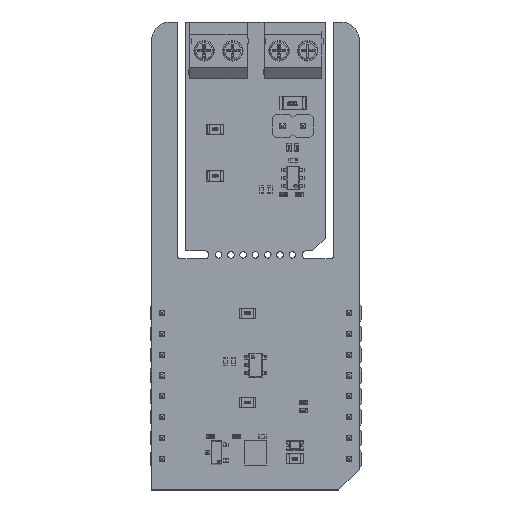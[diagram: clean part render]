
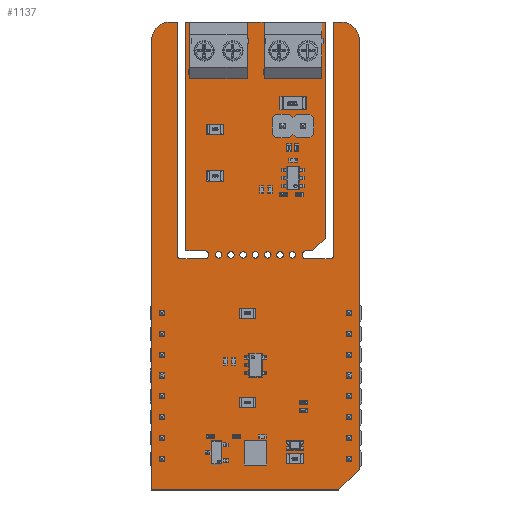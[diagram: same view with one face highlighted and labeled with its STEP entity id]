
A CAD part, top view. The second image highlights one B-rep face of the part: STEP entity #1137.
In plain terms, the highlighted planar face has unit normal (0, 0, 1).
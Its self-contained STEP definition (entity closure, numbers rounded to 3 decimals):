
#168 = VERTEX_POINT('',#169);
#169 = CARTESIAN_POINT('',(1.905,24.8,1.59));
#175 = EDGE_CURVE('',#168,#176,#178,.T.);
#176 = VERTEX_POINT('',#177);
#177 = CARTESIAN_POINT('',(2.305,24.4,1.59));
#178 = CIRCLE('',#179,0.399);
#179 = AXIS2_PLACEMENT_3D('',#180,#181,#182);
#180 = CARTESIAN_POINT('',(2.304,24.799,1.59));
#181 = DIRECTION('',(0.,0.,1.));
#182 = DIRECTION('',(-1.,0.001,0.));
#208 = EDGE_CURVE('',#176,#209,#211,.T.);
#209 = VERTEX_POINT('',#210);
#210 = CARTESIAN_POINT('',(5.23,24.4,1.59));
#211 = LINE('',#212,#213);
#212 = CARTESIAN_POINT('',(2.305,24.4,1.59));
#213 = VECTOR('',#214,1.);
#214 = DIRECTION('',(1.,0.,0.));
#239 = EDGE_CURVE('',#209,#240,#242,.T.);
#240 = VERTEX_POINT('',#241);
#241 = CARTESIAN_POINT('',(5.23,25.4,1.59));
#242 = CIRCLE('',#243,0.5);
#243 = AXIS2_PLACEMENT_3D('',#244,#245,#246);
#244 = CARTESIAN_POINT('',(5.23,24.9,1.59));
#245 = DIRECTION('',(0.,0.,1.));
#246 = DIRECTION('',(-0.,-1.,0.));
#272 = EDGE_CURVE('',#240,#273,#275,.T.);
#273 = VERTEX_POINT('',#274);
#274 = CARTESIAN_POINT('',(2.921,25.4,1.59));
#275 = LINE('',#276,#277);
#276 = CARTESIAN_POINT('',(5.23,25.4,1.59));
#277 = VECTOR('',#278,1.);
#278 = DIRECTION('',(-1.,0.,0.));
#303 = EDGE_CURVE('',#273,#304,#306,.T.);
#304 = VERTEX_POINT('',#305);
#305 = CARTESIAN_POINT('',(2.921,53.34,1.59));
#306 = LINE('',#307,#308);
#307 = CARTESIAN_POINT('',(2.921,25.4,1.59));
#308 = VECTOR('',#309,1.);
#309 = DIRECTION('',(0.,1.,0.));
#334 = EDGE_CURVE('',#304,#335,#337,.T.);
#335 = VERTEX_POINT('',#336);
#336 = CARTESIAN_POINT('',(19.939,53.34,1.59));
#337 = LINE('',#338,#339);
#338 = CARTESIAN_POINT('',(2.921,53.34,1.59));
#339 = VECTOR('',#340,1.);
#340 = DIRECTION('',(1.,0.,0.));
#365 = EDGE_CURVE('',#335,#366,#368,.T.);
#366 = VERTEX_POINT('',#367);
#367 = CARTESIAN_POINT('',(19.939,26.924,1.59));
#368 = LINE('',#369,#370);
#369 = CARTESIAN_POINT('',(19.939,53.34,1.59));
#370 = VECTOR('',#371,1.);
#371 = DIRECTION('',(0.,-1.,0.));
#396 = EDGE_CURVE('',#366,#397,#399,.T.);
#397 = VERTEX_POINT('',#398);
#398 = CARTESIAN_POINT('',(18.415,25.4,1.59));
#399 = LINE('',#400,#401);
#400 = CARTESIAN_POINT('',(19.939,26.924,1.59));
#401 = VECTOR('',#402,1.);
#402 = DIRECTION('',(-0.707,-0.707,0.));
#427 = EDGE_CURVE('',#397,#428,#430,.T.);
#428 = VERTEX_POINT('',#429);
#429 = CARTESIAN_POINT('',(17.63,25.4,1.59));
#430 = LINE('',#431,#432);
#431 = CARTESIAN_POINT('',(18.415,25.4,1.59));
#432 = VECTOR('',#433,1.);
#433 = DIRECTION('',(-1.,0.,0.));
#458 = EDGE_CURVE('',#428,#459,#461,.T.);
#459 = VERTEX_POINT('',#460);
#460 = CARTESIAN_POINT('',(17.63,24.4,1.59));
#461 = CIRCLE('',#462,0.5);
#462 = AXIS2_PLACEMENT_3D('',#463,#464,#465);
#463 = CARTESIAN_POINT('',(17.63,24.9,1.59));
#464 = DIRECTION('',(0.,-0.,1.));
#465 = DIRECTION('',(0.,1.,0.));
#491 = EDGE_CURVE('',#459,#492,#494,.T.);
#492 = VERTEX_POINT('',#493);
#493 = CARTESIAN_POINT('',(20.555,24.4,1.59));
#494 = LINE('',#495,#496);
#495 = CARTESIAN_POINT('',(17.63,24.4,1.59));
#496 = VECTOR('',#497,1.);
#497 = DIRECTION('',(1.,0.,0.));
#522 = EDGE_CURVE('',#492,#523,#525,.T.);
#523 = VERTEX_POINT('',#524);
#524 = CARTESIAN_POINT('',(20.955,24.8,1.59));
#525 = CIRCLE('',#526,0.399);
#526 = AXIS2_PLACEMENT_3D('',#527,#528,#529);
#527 = CARTESIAN_POINT('',(20.556,24.799,1.59));
#528 = DIRECTION('',(0.,0.,1.));
#529 = DIRECTION('',(-0.001,-1.,0.));
#555 = EDGE_CURVE('',#523,#556,#558,.T.);
#556 = VERTEX_POINT('',#557);
#557 = CARTESIAN_POINT('',(20.955,53.34,1.59));
#558 = LINE('',#559,#560);
#559 = CARTESIAN_POINT('',(20.955,24.8,1.59));
#560 = VECTOR('',#561,1.);
#561 = DIRECTION('',(0.,1.,0.));
#586 = EDGE_CURVE('',#556,#587,#589,.T.);
#587 = VERTEX_POINT('',#588);
#588 = CARTESIAN_POINT('',(21.844,53.34,1.59));
#589 = LINE('',#590,#591);
#590 = CARTESIAN_POINT('',(20.955,53.34,1.59));
#591 = VECTOR('',#592,1.);
#592 = DIRECTION('',(1.,0.,0.));
#617 = EDGE_CURVE('',#587,#618,#620,.T.);
#618 = VERTEX_POINT('',#619);
#619 = CARTESIAN_POINT('',(24.13,51.054,1.59));
#620 = CIRCLE('',#621,2.288);
#621 = AXIS2_PLACEMENT_3D('',#622,#623,#624);
#622 = CARTESIAN_POINT('',(21.842,51.052,1.59));
#623 = DIRECTION('',(0.,0.,-1.));
#624 = DIRECTION('',(0.001,1.,0.));
#650 = EDGE_CURVE('',#618,#651,#653,.T.);
#651 = VERTEX_POINT('',#652);
#652 = CARTESIAN_POINT('',(24.13,-1.27,1.59));
#653 = LINE('',#654,#655);
#654 = CARTESIAN_POINT('',(24.13,51.054,1.59));
#655 = VECTOR('',#656,1.);
#656 = DIRECTION('',(0.,-1.,0.));
#681 = EDGE_CURVE('',#651,#682,#684,.T.);
#682 = VERTEX_POINT('',#683);
#683 = CARTESIAN_POINT('',(21.59,-3.81,1.59));
#684 = LINE('',#685,#686);
#685 = CARTESIAN_POINT('',(24.13,-1.27,1.59));
#686 = VECTOR('',#687,1.);
#687 = DIRECTION('',(-0.707,-0.707,0.));
#712 = EDGE_CURVE('',#682,#713,#715,.T.);
#713 = VERTEX_POINT('',#714);
#714 = CARTESIAN_POINT('',(-1.27,-3.81,1.59));
#715 = LINE('',#716,#717);
#716 = CARTESIAN_POINT('',(21.59,-3.81,1.59));
#717 = VECTOR('',#718,1.);
#718 = DIRECTION('',(-1.,0.,0.));
#743 = EDGE_CURVE('',#713,#744,#746,.T.);
#744 = VERTEX_POINT('',#745);
#745 = CARTESIAN_POINT('',(-1.27,51.054,1.59));
#746 = LINE('',#747,#748);
#747 = CARTESIAN_POINT('',(-1.27,-3.81,1.59));
#748 = VECTOR('',#749,1.);
#749 = DIRECTION('',(0.,1.,0.));
#774 = EDGE_CURVE('',#744,#775,#777,.T.);
#775 = VERTEX_POINT('',#776);
#776 = CARTESIAN_POINT('',(1.016,53.34,1.59));
#777 = CIRCLE('',#778,2.288);
#778 = AXIS2_PLACEMENT_3D('',#779,#780,#781);
#779 = CARTESIAN_POINT('',(1.018,51.052,1.59));
#780 = DIRECTION('',(0.,0.,-1.));
#781 = DIRECTION('',(-1.,0.001,0.));
#807 = EDGE_CURVE('',#775,#808,#810,.T.);
#808 = VERTEX_POINT('',#809);
#809 = CARTESIAN_POINT('',(1.905,53.34,1.59));
#810 = LINE('',#811,#812);
#811 = CARTESIAN_POINT('',(1.016,53.34,1.59));
#812 = VECTOR('',#813,1.);
#813 = DIRECTION('',(1.,0.,0.));
#838 = EDGE_CURVE('',#808,#168,#839,.T.);
#839 = LINE('',#840,#841);
#840 = CARTESIAN_POINT('',(1.905,53.34,1.59));
#841 = VECTOR('',#842,1.);
#842 = DIRECTION('',(0.,-1.,0.));
#862 = VERTEX_POINT('',#863);
#863 = CARTESIAN_POINT('',(7.33,24.9,1.59));
#869 = EDGE_CURVE('',#862,#862,#870,.T.);
#870 = CIRCLE('',#871,0.4);
#871 = AXIS2_PLACEMENT_3D('',#872,#873,#874);
#872 = CARTESIAN_POINT('',(6.93,24.9,1.59));
#873 = DIRECTION('',(0.,0.,1.));
#874 = DIRECTION('',(1.,0.,-0.));
#895 = VERTEX_POINT('',#896);
#896 = CARTESIAN_POINT('',(8.83,24.9,1.59));
#902 = EDGE_CURVE('',#895,#895,#903,.T.);
#903 = CIRCLE('',#904,0.4);
#904 = AXIS2_PLACEMENT_3D('',#905,#906,#907);
#905 = CARTESIAN_POINT('',(8.43,24.9,1.59));
#906 = DIRECTION('',(0.,0.,1.));
#907 = DIRECTION('',(1.,0.,-0.));
#928 = VERTEX_POINT('',#929);
#929 = CARTESIAN_POINT('',(10.33,24.9,1.59));
#935 = EDGE_CURVE('',#928,#928,#936,.T.);
#936 = CIRCLE('',#937,0.4);
#937 = AXIS2_PLACEMENT_3D('',#938,#939,#940);
#938 = CARTESIAN_POINT('',(9.93,24.9,1.59));
#939 = DIRECTION('',(0.,0.,1.));
#940 = DIRECTION('',(1.,0.,-0.));
#961 = VERTEX_POINT('',#962);
#962 = CARTESIAN_POINT('',(14.83,24.9,1.59));
#968 = EDGE_CURVE('',#961,#961,#969,.T.);
#969 = CIRCLE('',#970,0.4);
#970 = AXIS2_PLACEMENT_3D('',#971,#972,#973);
#971 = CARTESIAN_POINT('',(14.43,24.9,1.59));
#972 = DIRECTION('',(0.,0.,1.));
#973 = DIRECTION('',(1.,0.,-0.));
#994 = VERTEX_POINT('',#995);
#995 = CARTESIAN_POINT('',(16.33,24.9,1.59));
#1001 = EDGE_CURVE('',#994,#994,#1002,.T.);
#1002 = CIRCLE('',#1003,0.4);
#1003 = AXIS2_PLACEMENT_3D('',#1004,#1005,#1006);
#1004 = CARTESIAN_POINT('',(15.93,24.9,1.59));
#1005 = DIRECTION('',(0.,0.,1.));
#1006 = DIRECTION('',(1.,0.,-0.));
#1027 = VERTEX_POINT('',#1028);
#1028 = CARTESIAN_POINT('',(11.83,24.9,1.59));
#1034 = EDGE_CURVE('',#1027,#1027,#1035,.T.);
#1035 = CIRCLE('',#1036,0.4);
#1036 = AXIS2_PLACEMENT_3D('',#1037,#1038,#1039);
#1037 = CARTESIAN_POINT('',(11.43,24.9,1.59));
#1038 = DIRECTION('',(0.,0.,1.));
#1039 = DIRECTION('',(1.,0.,-0.));
#1060 = VERTEX_POINT('',#1061);
#1061 = CARTESIAN_POINT('',(13.33,24.9,1.59));
#1067 = EDGE_CURVE('',#1060,#1060,#1068,.T.);
#1068 = CIRCLE('',#1069,0.4);
#1069 = AXIS2_PLACEMENT_3D('',#1070,#1071,#1072);
#1070 = CARTESIAN_POINT('',(12.93,24.9,1.59));
#1071 = DIRECTION('',(0.,0.,1.));
#1072 = DIRECTION('',(1.,0.,-0.));
#1137 = ADVANCED_FACE('',(#1138,#1162,#1165,#1168,#1171,#1174,#1177,
    #1180),#1183,.F.);
#1138 = FACE_BOUND('',#1139,.F.);
#1139 = EDGE_LOOP('',(#1140,#1141,#1142,#1143,#1144,#1145,#1146,#1147,
    #1148,#1149,#1150,#1151,#1152,#1153,#1154,#1155,#1156,#1157,#1158,
    #1159,#1160,#1161));
#1140 = ORIENTED_EDGE('',*,*,#175,.T.);
#1141 = ORIENTED_EDGE('',*,*,#208,.T.);
#1142 = ORIENTED_EDGE('',*,*,#239,.T.);
#1143 = ORIENTED_EDGE('',*,*,#272,.T.);
#1144 = ORIENTED_EDGE('',*,*,#303,.T.);
#1145 = ORIENTED_EDGE('',*,*,#334,.T.);
#1146 = ORIENTED_EDGE('',*,*,#365,.T.);
#1147 = ORIENTED_EDGE('',*,*,#396,.T.);
#1148 = ORIENTED_EDGE('',*,*,#427,.T.);
#1149 = ORIENTED_EDGE('',*,*,#458,.T.);
#1150 = ORIENTED_EDGE('',*,*,#491,.T.);
#1151 = ORIENTED_EDGE('',*,*,#522,.T.);
#1152 = ORIENTED_EDGE('',*,*,#555,.T.);
#1153 = ORIENTED_EDGE('',*,*,#586,.T.);
#1154 = ORIENTED_EDGE('',*,*,#617,.T.);
#1155 = ORIENTED_EDGE('',*,*,#650,.T.);
#1156 = ORIENTED_EDGE('',*,*,#681,.T.);
#1157 = ORIENTED_EDGE('',*,*,#712,.T.);
#1158 = ORIENTED_EDGE('',*,*,#743,.T.);
#1159 = ORIENTED_EDGE('',*,*,#774,.T.);
#1160 = ORIENTED_EDGE('',*,*,#807,.T.);
#1161 = ORIENTED_EDGE('',*,*,#838,.T.);
#1162 = FACE_BOUND('',#1163,.F.);
#1163 = EDGE_LOOP('',(#1164));
#1164 = ORIENTED_EDGE('',*,*,#869,.T.);
#1165 = FACE_BOUND('',#1166,.F.);
#1166 = EDGE_LOOP('',(#1167));
#1167 = ORIENTED_EDGE('',*,*,#902,.T.);
#1168 = FACE_BOUND('',#1169,.F.);
#1169 = EDGE_LOOP('',(#1170));
#1170 = ORIENTED_EDGE('',*,*,#935,.T.);
#1171 = FACE_BOUND('',#1172,.F.);
#1172 = EDGE_LOOP('',(#1173));
#1173 = ORIENTED_EDGE('',*,*,#968,.T.);
#1174 = FACE_BOUND('',#1175,.F.);
#1175 = EDGE_LOOP('',(#1176));
#1176 = ORIENTED_EDGE('',*,*,#1001,.T.);
#1177 = FACE_BOUND('',#1178,.F.);
#1178 = EDGE_LOOP('',(#1179));
#1179 = ORIENTED_EDGE('',*,*,#1034,.T.);
#1180 = FACE_BOUND('',#1181,.F.);
#1181 = EDGE_LOOP('',(#1182));
#1182 = ORIENTED_EDGE('',*,*,#1067,.T.);
#1183 = PLANE('',#1184);
#1184 = AXIS2_PLACEMENT_3D('',#1185,#1186,#1187);
#1185 = CARTESIAN_POINT('',(11.331,30.213,1.59));
#1186 = DIRECTION('',(-0.,-0.,-1.));
#1187 = DIRECTION('',(-1.,0.,0.));
